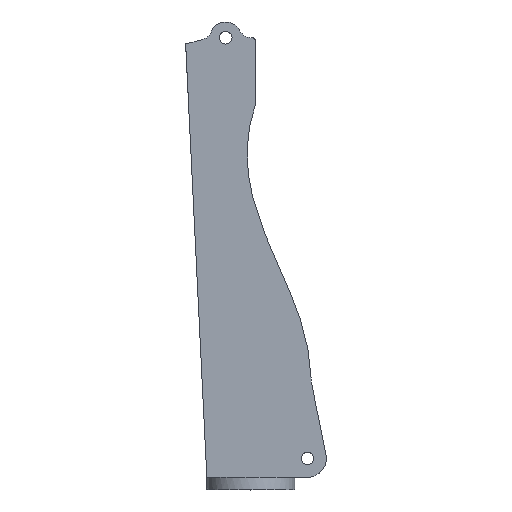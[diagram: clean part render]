
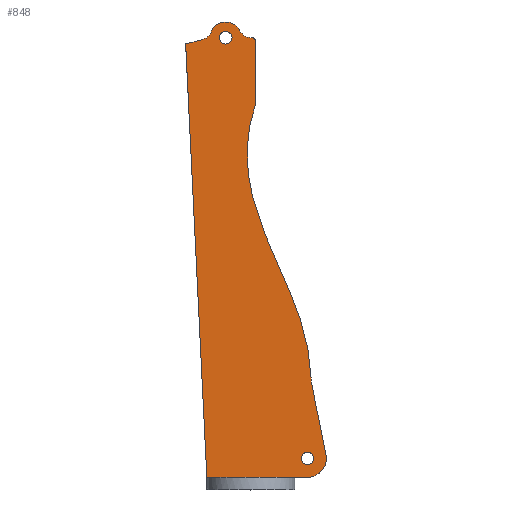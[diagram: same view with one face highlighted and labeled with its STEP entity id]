
A CAD part, top view. The second image highlights one B-rep face of the part: STEP entity #848.
In plain terms, the highlighted planar face has unit normal (0, 0, 1).
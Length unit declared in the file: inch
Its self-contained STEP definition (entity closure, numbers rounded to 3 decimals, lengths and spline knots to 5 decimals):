
#20=FACE_BOUND('',#179,.T.);
#21=FACE_BOUND('',#180,.T.);
#49=B_SPLINE_CURVE_WITH_KNOTS('',3,(#1384,#1385,#1386,#1387),
 .UNSPECIFIED.,.F.,.F.,(4,4),(0.01384,1.),.UNSPECIFIED.);
#75=CIRCLE('',#932,2.5);
#77=CIRCLE('',#937,1.);
#80=CIRCLE('',#941,3.);
#81=CIRCLE('',#943,1.);
#83=CIRCLE('',#946,0.5);
#84=CIRCLE('',#947,2.);
#85=CIRCLE('',#948,2.);
#86=CIRCLE('',#949,8.);
#128=FACE_OUTER_BOUND('',#178,.T.);
#178=EDGE_LOOP('',(#671,#672,#673,#674,#675,#676,#677,#678,#679,#680,#681,
#682,#683,#684,#685));
#179=EDGE_LOOP('',(#686));
#180=EDGE_LOOP('',(#687));
#227=LINE('',#1329,#300);
#233=LINE('',#1356,#306);
#235=LINE('',#1360,#308);
#240=LINE('',#1372,#313);
#246=LINE('',#1401,#319);
#247=LINE('',#1405,#320);
#254=LINE('',#1428,#327);
#259=LINE('',#1436,#332);
#300=VECTOR('',#1052,9.79796);
#306=VECTOR('',#1084,4.10102);
#308=VECTOR('',#1088,2.10102);
#313=VECTOR('',#1097,11.40977);
#319=VECTOR('',#1105,10.14479);
#320=VECTOR('',#1108,0.16984);
#327=VECTOR('',#1127,2.76324);
#332=VECTOR('',#1134,68.95689);
#379=VERTEX_POINT('',#1323);
#380=VERTEX_POINT('',#1325);
#388=VERTEX_POINT('',#1354);
#389=VERTEX_POINT('',#1358);
#393=VERTEX_POINT('',#1369);
#394=VERTEX_POINT('',#1371);
#395=VERTEX_POINT('',#1382);
#396=VERTEX_POINT('',#1383);
#400=VERTEX_POINT('',#1399);
#401=VERTEX_POINT('',#1403);
#402=VERTEX_POINT('',#1404);
#408=VERTEX_POINT('',#1418);
#409=VERTEX_POINT('',#1420);
#411=VERTEX_POINT('',#1426);
#412=VERTEX_POINT('',#1427);
#415=VERTEX_POINT('',#1438);
#417=VERTEX_POINT('',#1447);
#467=EDGE_CURVE('',#380,#379,#227,.T.);
#479=EDGE_CURVE('',#379,#388,#233,.T.);
#481=EDGE_CURVE('',#389,#380,#235,.T.);
#486=EDGE_CURVE('',#393,#394,#240,.T.);
#488=EDGE_CURVE('',#395,#396,#49,.T.);
#494=EDGE_CURVE('',#400,#396,#246,.T.);
#495=EDGE_CURVE('',#401,#402,#247,.T.);
#503=EDGE_CURVE('',#409,#408,#75,.T.);
#506=EDGE_CURVE('',#411,#412,#254,.T.);
#511=EDGE_CURVE('',#389,#411,#259,.T.);
#512=EDGE_CURVE('',#415,#415,#77,.T.);
#516=EDGE_CURVE('',#388,#394,#80,.T.);
#517=EDGE_CURVE('',#417,#417,#81,.T.);
#520=EDGE_CURVE('',#400,#402,#83,.T.);
#521=EDGE_CURVE('',#401,#409,#84,.F.);
#522=EDGE_CURVE('',#408,#412,#85,.F.);
#523=EDGE_CURVE('',#393,#395,#86,.F.);
#671=ORIENTED_EDGE('',*,*,#494,.F.);
#672=ORIENTED_EDGE('',*,*,#520,.T.);
#673=ORIENTED_EDGE('',*,*,#495,.F.);
#674=ORIENTED_EDGE('',*,*,#521,.T.);
#675=ORIENTED_EDGE('',*,*,#503,.T.);
#676=ORIENTED_EDGE('',*,*,#522,.T.);
#677=ORIENTED_EDGE('',*,*,#506,.F.);
#678=ORIENTED_EDGE('',*,*,#511,.F.);
#679=ORIENTED_EDGE('',*,*,#481,.T.);
#680=ORIENTED_EDGE('',*,*,#467,.T.);
#681=ORIENTED_EDGE('',*,*,#479,.T.);
#682=ORIENTED_EDGE('',*,*,#516,.T.);
#683=ORIENTED_EDGE('',*,*,#486,.F.);
#684=ORIENTED_EDGE('',*,*,#523,.T.);
#685=ORIENTED_EDGE('',*,*,#488,.T.);
#686=ORIENTED_EDGE('',*,*,#512,.F.);
#687=ORIENTED_EDGE('',*,*,#517,.F.);
#808=PLANE('',#945);
#848=ADVANCED_FACE('',(#128,#20,#21),#808,.T.);
#932=AXIS2_PLACEMENT_3D('',#1421,#1120,#1121);
#937=AXIS2_PLACEMENT_3D('',#1439,#1137,#1138);
#941=AXIS2_PLACEMENT_3D('',#1445,#1146,#1147);
#943=AXIS2_PLACEMENT_3D('',#1448,#1150,#1151);
#945=AXIS2_PLACEMENT_3D('',#1452,#1155,#1156);
#946=AXIS2_PLACEMENT_3D('',#1453,#1157,#1158);
#947=AXIS2_PLACEMENT_3D('',#1454,#1159,#1160);
#948=AXIS2_PLACEMENT_3D('',#1455,#1161,#1162);
#949=AXIS2_PLACEMENT_3D('',#1456,#1163,#1164);
#1052=DIRECTION('',(1.,0.,0.));
#1084=DIRECTION('',(1.,0.,0.));
#1088=DIRECTION('',(1.,0.,0.));
#1097=DIRECTION('',(0.198,-0.98,0.));
#1105=DIRECTION('',(0.,-1.,0.));
#1108=DIRECTION('',(1.,0.,0.));
#1120=DIRECTION('center_axis',(0.,0.,
1.));
#1121=DIRECTION('ref_axis',(1.,0.,0.));
#1127=DIRECTION('',(0.969,0.248,0.));
#1134=DIRECTION('',(-0.049,0.999,0.));
#1137=DIRECTION('center_axis',(0.,0.,
1.));
#1138=DIRECTION('ref_axis',(1.,0.,0.));
#1146=DIRECTION('center_axis',(0.,0.,
1.));
#1147=DIRECTION('ref_axis',(1.,0.,0.));
#1150=DIRECTION('center_axis',(0.,0.,
1.));
#1151=DIRECTION('ref_axis',(1.,0.,0.));
#1155=DIRECTION('center_axis',(0.,0.,
1.));
#1156=DIRECTION('ref_axis',(1.,0.,0.));
#1157=DIRECTION('center_axis',(0.,0.,
1.));
#1158=DIRECTION('ref_axis',(1.,0.,0.));
#1159=DIRECTION('center_axis',(0.,0.,
1.));
#1160=DIRECTION('ref_axis',(1.,0.,0.));
#1161=DIRECTION('center_axis',(0.,0.,
1.));
#1162=DIRECTION('ref_axis',(1.,0.,0.));
#1163=DIRECTION('center_axis',(0.,0.,
1.));
#1164=DIRECTION('ref_axis',(1.,0.,0.));
#1323=CARTESIAN_POINT('',(8.89898,-69.866,5.));
#1325=CARTESIAN_POINT('',(-0.89898,-69.866,5.));
#1329=CARTESIAN_POINT('',(-0.89898,-69.866,5.));
#1354=CARTESIAN_POINT('',(13.,-69.866,5.));
#1356=CARTESIAN_POINT('',(8.89898,-69.866,5.));
#1358=CARTESIAN_POINT('',(-3.,-69.866,5.));
#1360=CARTESIAN_POINT('',(-3.,-69.866,5.));
#1369=CARTESIAN_POINT('',(13.6997,-55.18826,5.));
#1371=CARTESIAN_POINT('',(15.95906,-66.37209,5.));
#1372=CARTESIAN_POINT('',(13.6997,-55.18826,5.));
#1382=CARTESIAN_POINT('',(13.54404,-53.8141,5.));
#1383=CARTESIAN_POINT('',(4.70097,-10.64465,5.));
#1384=CARTESIAN_POINT('Ctrl Pts',(13.54404,-53.8141,5.));
#1385=CARTESIAN_POINT('Ctrl Pts',(13.14206,-38.50578,5.));
#1386=CARTESIAN_POINT('Ctrl Pts',(-0.87164,-27.41763,
5.));
#1387=CARTESIAN_POINT('Ctrl Pts',(4.70097,-10.64465,5.));
#1399=CARTESIAN_POINT('',(4.70097,-0.49986,5.));
#1401=CARTESIAN_POINT('',(4.70097,-0.49986,5.));
#1403=CARTESIAN_POINT('',(4.03113,0.00014,5.));
#1404=CARTESIAN_POINT('',(4.20097,0.00014,5.));
#1405=CARTESIAN_POINT('',(4.03113,0.00014,5.));
#1418=CARTESIAN_POINT('',(-2.33005,0.90617,5.));
#1420=CARTESIAN_POINT('',(2.23952,1.11125,5.));
#1421=CARTESIAN_POINT('Origin',(0.,0.00014,
5.));
#1426=CARTESIAN_POINT('',(-6.37507,-0.99175,5.));
#1427=CARTESIAN_POINT('',(-3.69814,-0.30654,5.));
#1428=CARTESIAN_POINT('',(-6.37507,-0.99175,5.));
#1436=CARTESIAN_POINT('',(-3.,-69.866,5.));
#1438=CARTESIAN_POINT('',(14.,-66.866,5.));
#1439=CARTESIAN_POINT('Origin',(13.,-66.866,5.));
#1445=CARTESIAN_POINT('Origin',(13.,-66.866,5.));
#1447=CARTESIAN_POINT('',(1.,0.00014,5.));
#1448=CARTESIAN_POINT('Origin',(0.,0.00014,
5.));
#1452=CARTESIAN_POINT('Origin',(4.,-71.866,5.));
#1453=CARTESIAN_POINT('Origin',(4.20097,-0.49986,5.));
#1454=CARTESIAN_POINT('Origin',(4.03113,2.00014,5.));
#1455=CARTESIAN_POINT('Origin',(-4.19408,1.63099,5.));
#1456=CARTESIAN_POINT('Origin',(21.54128,-53.6041,5.));
